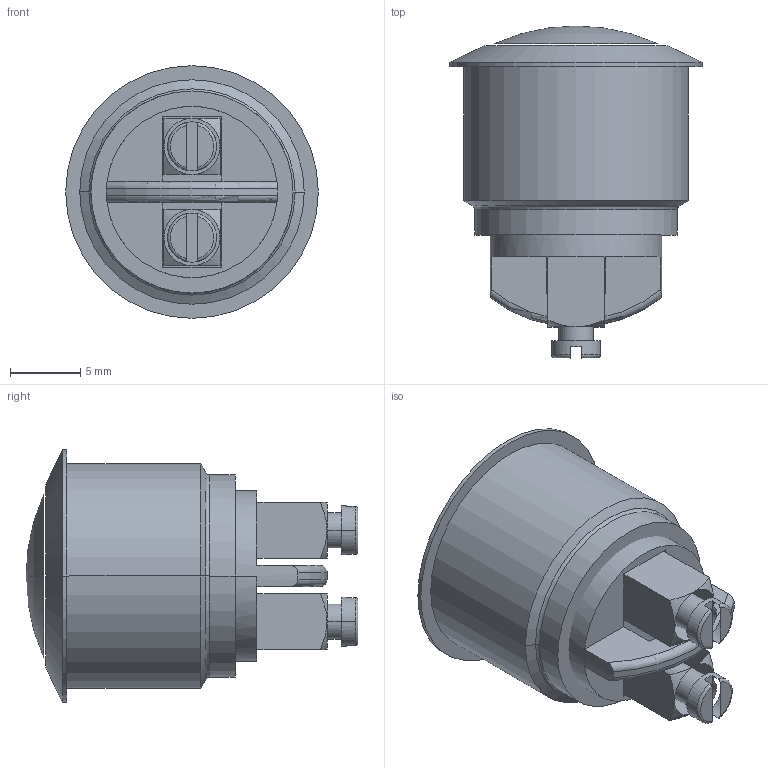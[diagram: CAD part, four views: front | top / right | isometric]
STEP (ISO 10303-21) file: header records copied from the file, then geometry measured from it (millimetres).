
FILE_DESCRIPTION((''),'2;1');
FILE_NAME('AV16-3D_ASM_SW0001','2009-06-08T',('jlgachon'),(''),'PRO/ENGINEER BY PARAMETRIC TECHNOLOGY CORPORATION, 2007030','PRO/ENGINEER BY PARAMETRIC TECHNOLOGY CORPORATION, 2007030','');
FILE_SCHEMA(('CONFIG_CONTROL_DESIGN'));
Length unit declared in the file: millimetre
Products named in the file (1): AV16-3D_ASM_SW0001
Bounding box: 18 x 23.65 x 18 mm (x, y, z)
Surface area: 1938.4 mm2 (no closed solid volume)
Topology: 0 solids, 10 shells, 58 faces, 190 edges, 133 vertices
Faces by surface type: plane 19, cylinder 17, cone 12, torus 8, sphere 2
Entity records: 2373 total; most frequent: CARTESIAN_POINT 718, DIRECTION 354, ORIENTED_EDGE 294, EDGE_CURVE 188, AXIS2_PLACEMENT_3D 140, VERTEX_POINT 133, CIRCLE 82, VECTOR 74
